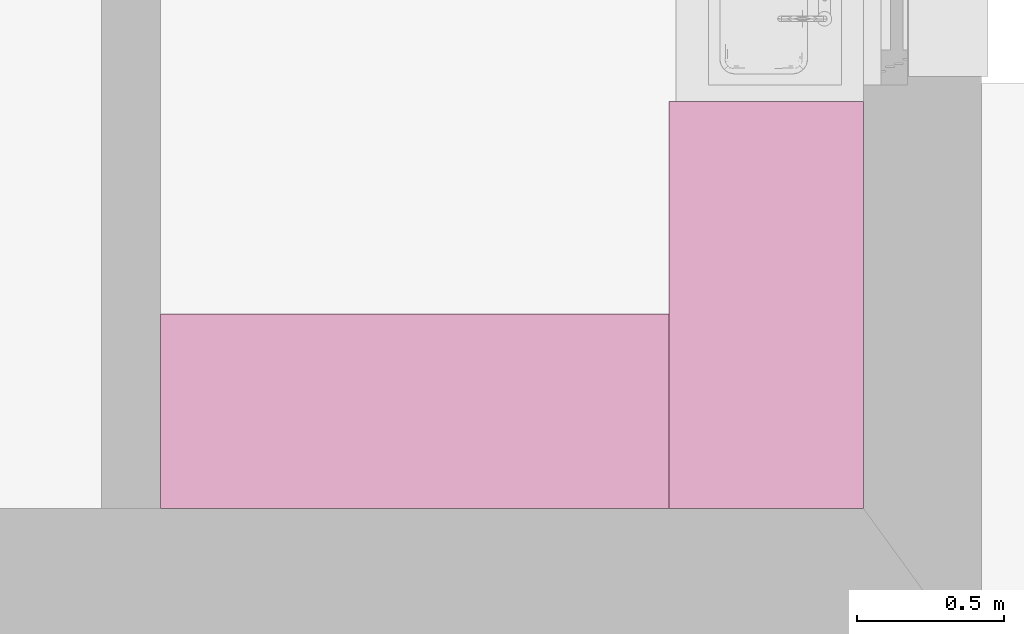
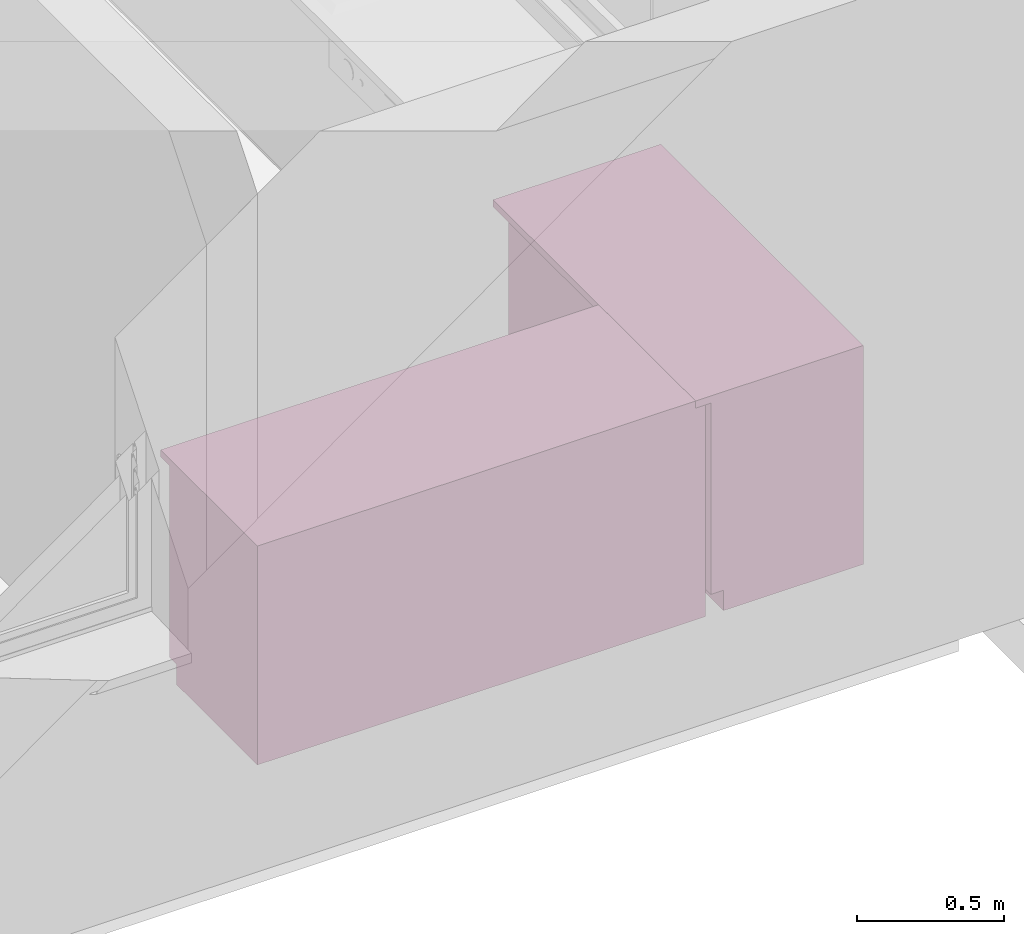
# One storey, part 18 of 18: 2 furnishings.
"""IFC2X3 building model written with IfcOpenShell, lengths in metres."""

from ifc_helpers import new_model, entity, si_unit, converted_unit, derived_unit, direction, frame, origin, origin_2d_with_axis, place, context, subcontext, project, spatial, rectangle, extrude, source, transform, mapped, material, material_list, type_object, type_shapes, element, save


model = new_model("IFC2X3")

# Units and contexts
model_context = context("Model", 3, precision=1e-05, world=origin(), true_north=direction((6.123233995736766e-17, 1.0)))
body_context = subcontext(model_context, "Body", "Model", "MODEL_VIEW")
ifc_project = project(units=[si_unit("LENGTHUNIT", "METRE"), si_unit("AREAUNIT", "SQUARE_METRE"), si_unit("VOLUMEUNIT", "CUBIC_METRE"), si_unit("POWERUNIT", "WATT"), derived_unit("USERDEFINED", [(si_unit("MASSUNIT", "GRAM", prefix="KILO"), 1), (si_unit("TIMEUNIT", "SECOND"), -3)]), derived_unit("THERMALRESISTANCEUNIT", [(si_unit("MASSUNIT", "GRAM", prefix="KILO"), -1), (si_unit("TIMEUNIT", "SECOND"), 3), (si_unit("THERMODYNAMICTEMPERATUREUNIT", "KELVIN"), 1)]), derived_unit("USERDEFINED", [(si_unit("MASSUNIT", "GRAM", prefix="KILO"), 1), (si_unit("TIMEUNIT", "SECOND"), -2), (si_unit("THERMODYNAMICTEMPERATUREUNIT", "KELVIN"), -1)]), derived_unit("THERMALTRANSMITTANCEUNIT", [(si_unit("MASSUNIT", "GRAM", prefix="KILO"), 1), (si_unit("TIMEUNIT", "SECOND"), -3), (si_unit("THERMODYNAMICTEMPERATUREUNIT", "KELVIN"), -1)]), converted_unit("PLANEANGLEUNIT", "DEGREE", entity("IfcPlaneAngleMeasure", 0.017453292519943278), si_unit("PLANEANGLEUNIT", "RADIAN"), dimensions=[0, 0, 0, 0, 0, 0, 0]), derived_unit("MOMENTOFINERTIAUNIT", [(si_unit("LENGTHUNIT", "METRE"), 4)])], contexts=[model_context])

# Site, building, storey, space
site_placement = place(None, origin())
site = spatial("IfcSite", under=ifc_project, at=site_placement, Name="Default", CompositionType="ELEMENT")
building_placement = place(site_placement, origin())
building = spatial("IfcBuilding", under=site, at=building_placement, CompositionType="ELEMENT")
storey_placement = place(building_placement, frame((0.0, 0.0, 2.6)))
storey = spatial("IfcBuildingStorey", under=building, at=storey_placement, Name="Erdgeschoss", CompositionType="ELEMENT", Elevation=2.6)
space_placement = place(storey_placement, origin())
space = spatial("IfcSpace", under=storey, at=space_placement, Name="10", CompositionType="ELEMENT", InteriorOrExteriorSpace="INTERNAL")

# Furnishings
ifc_material_1 = material(Name="Holz - Dunkelbraun 90-80-70")
ifc_material_2 = material(Name="Kunststoff - grau 80-80-80")
ifc_material_list = material_list([ifc_material_1, ifc_material_2])
furniture_type_1 = type_object("IfcFurnitureType", Name="Küchenzeile-01 Generisch:Typ1", AssemblyPlace="NOTDEFINED", material=ifc_material_list)
shared_shape_1 = source(origin(), body_context, "Body", "SweptSolid", [
    extrude(rectangle(XDim=1.7621617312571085, YDim=0.030000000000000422, at=origin_2d_with_axis()), frame((-0.6010808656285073, -0.28500000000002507, 0.08500000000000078)), (0.0, 0.0, 1.0), 0.7950000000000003),
    extrude(rectangle(XDim=1.7621617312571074, YDim=0.6600000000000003, at=origin_2d_with_axis()), frame((-0.6010808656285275, -0.02999999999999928, 0.8800000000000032)), (0.0, 0.0, 1.0), 0.030000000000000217),
    extrude(rectangle(XDim=1.7621617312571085, YDim=0.6000000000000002, at=origin_2d_with_axis()), frame((-0.601080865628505, 0.0, 0.08499999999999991)), (0.0, 0.0, 1.0), 0.7950000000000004),
    extrude(rectangle(XDim=1.7621617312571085, YDim=0.5500000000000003, at=origin_2d_with_axis()), frame((-0.6010808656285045, 0.02500000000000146, 0.0)), (0.0, 0.0, 1.0), 0.08500000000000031),
])
type_shapes(furniture_type_1, [shared_shape_1])
furnishing_1_placement = place(space_placement, frame((36.123754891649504, 16.142272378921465, 0.0), z_axis=(0.0, 0.0, 1.0), x_axis=(-1.0, 0.0, 0.0)))
element("IfcFurnishingElement", 1, at=furnishing_1_placement, inside=space, type_object=furniture_type_1, material=ifc_material_list, Name="Küchenzeile-01 Generisch:Typ1", ObjectType="Küchenzeile-01 Generisch:Typ1", context=body_context, shape_type="MappedRepresentation", body=[
    mapped(shared_shape_1, transform((0.0, 0.0, 0.0), scale=1.0)),
])
furniture_type_2 = type_object("IfcFurnitureType", Name="Küchenzeile-01 Generisch:Typ1", AssemblyPlace="NOTDEFINED", material=ifc_material_list)
shared_shape_2 = source(origin(), body_context, "Body", "SweptSolid", [
    extrude(rectangle(XDim=1.3800000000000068, YDim=0.030000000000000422, at=origin_2d_with_axis()), frame((-0.40999999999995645, -0.28500000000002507, 0.08500000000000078)), (0.0, 0.0, 1.0), 0.7950000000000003),
    extrude(rectangle(XDim=1.3800000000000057, YDim=0.6600000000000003, at=origin_2d_with_axis()), frame((-0.40999999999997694, -0.02999999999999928, 0.8800000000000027)), (0.0, 0.0, 1.0), 0.030000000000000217),
    extrude(rectangle(XDim=1.3800000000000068, YDim=0.6000000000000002, at=origin_2d_with_axis()), frame((-0.4099999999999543, 0.0, 0.08499999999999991)), (0.0, 0.0, 1.0), 0.7950000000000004),
    extrude(rectangle(XDim=1.3800000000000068, YDim=0.5500000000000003, at=origin_2d_with_axis()), frame((-0.4099999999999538, 0.02500000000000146, 0.0)), (0.0, 0.0, 1.0), 0.08500000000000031),
])
type_shapes(furniture_type_2, [shared_shape_2])
furnishing_2_placement = place(space_placement, frame((37.92672000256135, 16.122272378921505, 0.0), z_axis=(0.0, 0.0, 1.0), x_axis=(0.0, -1.0, 0.0)))
element("IfcFurnishingElement", 2, at=furnishing_2_placement, inside=space, type_object=furniture_type_2, material=ifc_material_list, Name="Küchenzeile-01 Generisch:Typ1", ObjectType="Küchenzeile-01 Generisch:Typ1", context=body_context, shape_type="MappedRepresentation", body=[
    mapped(shared_shape_2, transform((0.0, 0.0, 0.0), scale=1.0)),
])

save(model, "model.ifc")
